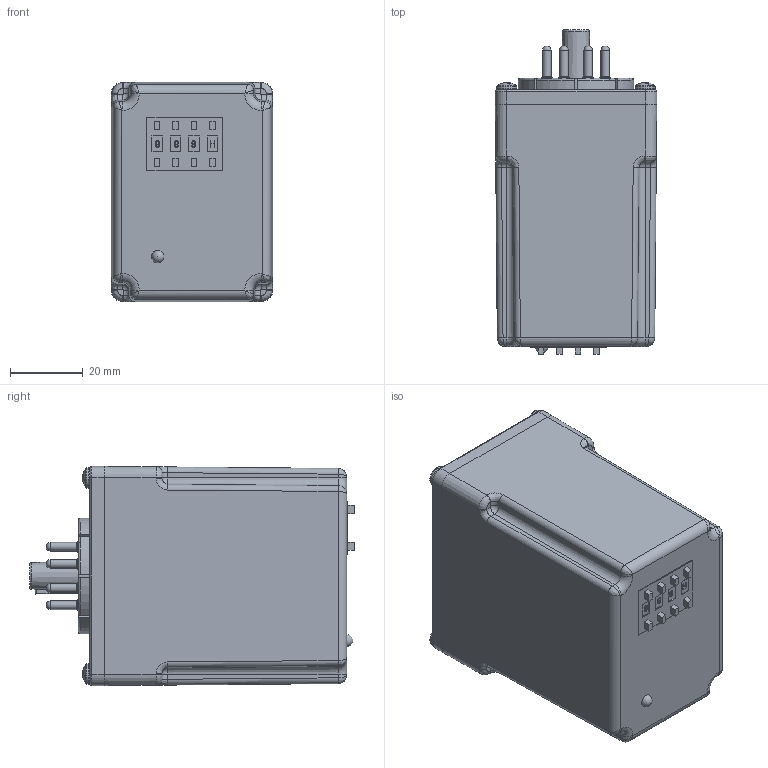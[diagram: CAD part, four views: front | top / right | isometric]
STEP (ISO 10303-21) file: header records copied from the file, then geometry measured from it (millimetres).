
FILE_DESCRIPTION(('FreeCAD Model'),'2;1');
FILE_NAME('Open CASCADE Shape Model','2023-06-06T13:26:32',(''),(''), 'Open CASCADE STEP processor 7.6','FreeCAD','Unknown');
FILE_SCHEMA(('AUTOMOTIVE_DESIGN { 1 0 10303 214 1 1 1 1 }'));
Products named in the file (1): Compound
Bounding box: 44.45 x 89.41 x 60.33 mm (x, y, z)
Surface area: 44180.9 mm2 (no closed solid volume)
Topology: 0 solids, 24 shells, 1971 faces, 5050 edges, 3145 vertices
Faces by surface type: plane 775, cylinder 682, bspline 239, torus 121, sphere 57, cone 57, revolution 40
Full cylindrical faces by diameter (mm): 0.254 x16, 1.257 x8, 1.714 x8, 1.905 x16, 2.362 x16, 2.464 x8, 3.175 x4, 4.191 x8, 7.925 x1
Entity records: 185469 total; most frequent: CARTESIAN_POINT 90531, DIRECTION 16086, ORIENTED_EDGE 9954, PCURVE 9954, DEFINITIONAL_REPRESENTATION 9954, LINE 9767, VECTOR 9767, EDGE_CURVE 4985
